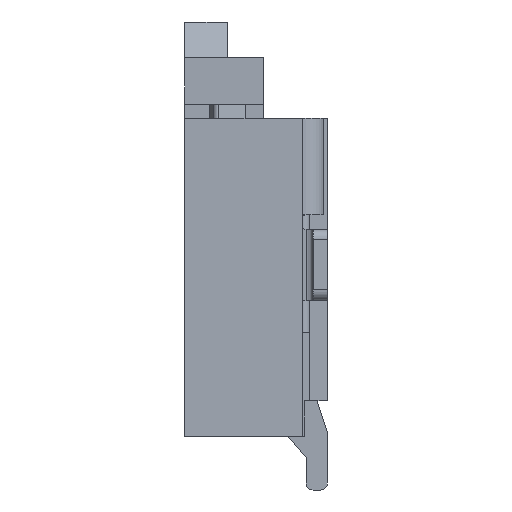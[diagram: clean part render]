
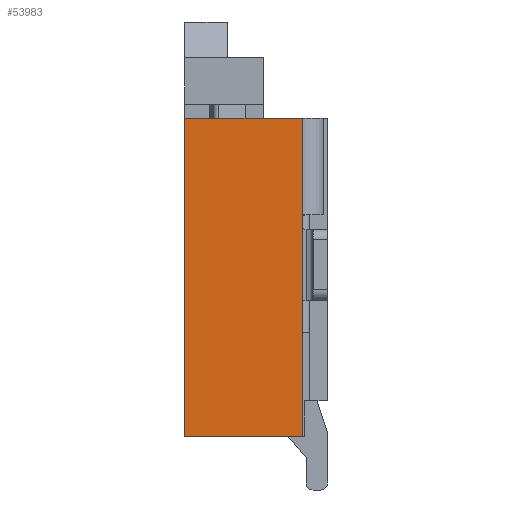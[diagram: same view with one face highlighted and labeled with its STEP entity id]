
A CAD part, left-side view. The second image highlights one B-rep face of the part: STEP entity #53983.
In plain terms, the highlighted planar face has unit normal (-1, 0, 0).
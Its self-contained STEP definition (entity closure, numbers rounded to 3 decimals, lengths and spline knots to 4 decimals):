
#6307=DIRECTION('',(0.,0.,1.));
#6308=VECTOR('',#6307,4.45);
#6309=CARTESIAN_POINT('',(-21.35,0.35,-4.45));
#6310=LINE('',#6309,#6308);
#6311=DIRECTION('',(0.,-1.,0.));
#6312=VECTOR('',#6311,1.65);
#6313=CARTESIAN_POINT('',(-21.35,2.,-4.45));
#6314=LINE('',#6313,#6312);
#6315=DIRECTION('',(0.,0.,-1.));
#6316=VECTOR('',#6315,4.45);
#6317=CARTESIAN_POINT('',(-21.35,2.,0.));
#6318=LINE('',#6317,#6316);
#6319=DIRECTION('',(0.,1.,0.));
#6320=VECTOR('',#6319,1.65);
#6321=CARTESIAN_POINT('',(-21.35,0.35,0.));
#6322=LINE('',#6321,#6320);
#41336=CARTESIAN_POINT('',(-21.35,0.35,-4.45));
#41337=VERTEX_POINT('',#41336);
#41338=CARTESIAN_POINT('',(-21.35,2.,-4.45));
#41339=VERTEX_POINT('',#41338);
#44815=CARTESIAN_POINT('',(-21.35,2.,0.));
#44816=VERTEX_POINT('',#44815);
#44821=CARTESIAN_POINT('',(-21.35,0.35,0.));
#44822=VERTEX_POINT('',#44821);
#53970=CARTESIAN_POINT('',(-21.35,1.175,-2.225));
#53971=DIRECTION('',(1.,0.,0.));
#53972=DIRECTION('',(0.,0.,-1.));
#53973=AXIS2_PLACEMENT_3D('',#53970,#53971,#53972);
#53974=PLANE('',#53973);
#53975=ORIENTED_EDGE('',*,*,#53961,.F.);
#53976=ORIENTED_EDGE('',*,*,#53657,.F.);
#53978=ORIENTED_EDGE('',*,*,#53977,.F.);
#53980=ORIENTED_EDGE('',*,*,#53979,.F.);
#53981=EDGE_LOOP('',(#53975,#53976,#53978,#53980));
#53982=FACE_OUTER_BOUND('',#53981,.F.);
#53657=EDGE_CURVE('',#41339,#41337,#6314,.T.);
#53961=EDGE_CURVE('',#41337,#44822,#6310,.T.);
#53977=EDGE_CURVE('',#44816,#41339,#6318,.T.);
#53979=EDGE_CURVE('',#44822,#44816,#6322,.T.);
#53983=ADVANCED_FACE('',(#53982),#53974,.F.);
